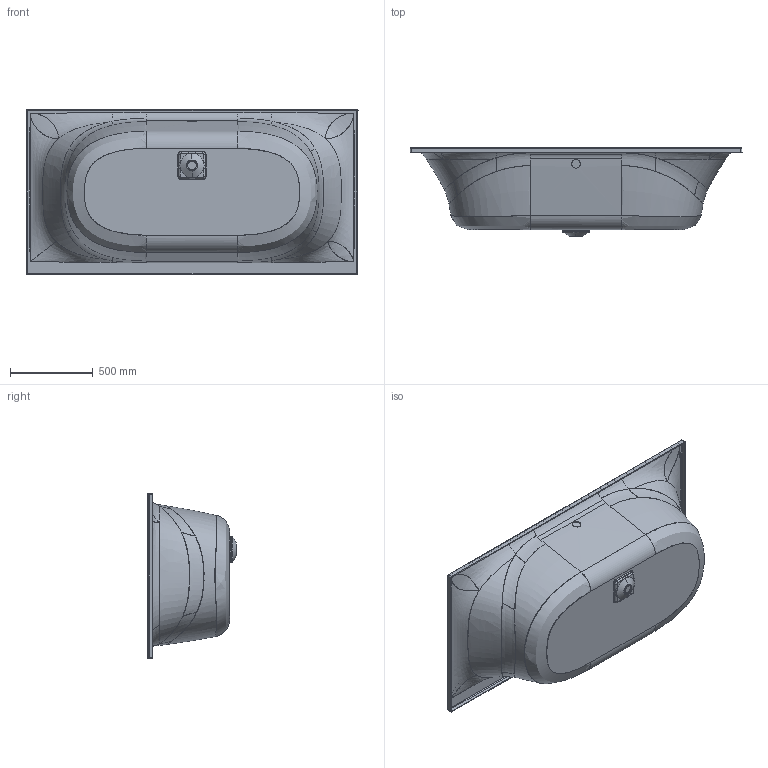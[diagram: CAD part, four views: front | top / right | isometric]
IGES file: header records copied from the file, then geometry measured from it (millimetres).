
Start section: SolidWorks IGES file using analytic representation for surfaces
Global section: file name: D:\Users\M.Szymanski\Desktop\Wanny\Thasos\03. do przegrania\WP_THASOS_100x200.IGS; native system: SolidWorks 2011; preprocessor: SolidWorks 2011; author: M.Szymanski; date: 180427.124457; units: millimetre
Bounding box: 2000 x 539 x 1000 mm (x, y, z)
Surface area: 7150552.7 mm2 (no closed solid volume)
Topology: 0 solids, 0 shells, 255 faces, 4945 edges, 4939 vertices
Faces by surface type: bspline 181, revolution 74
